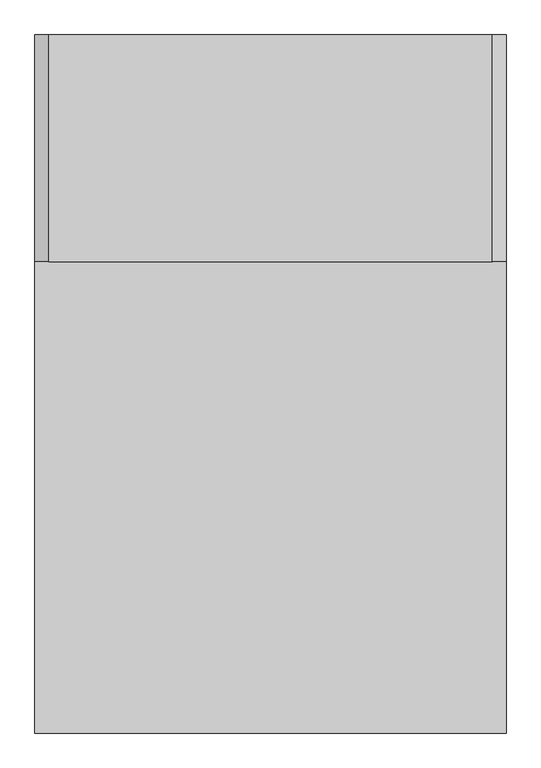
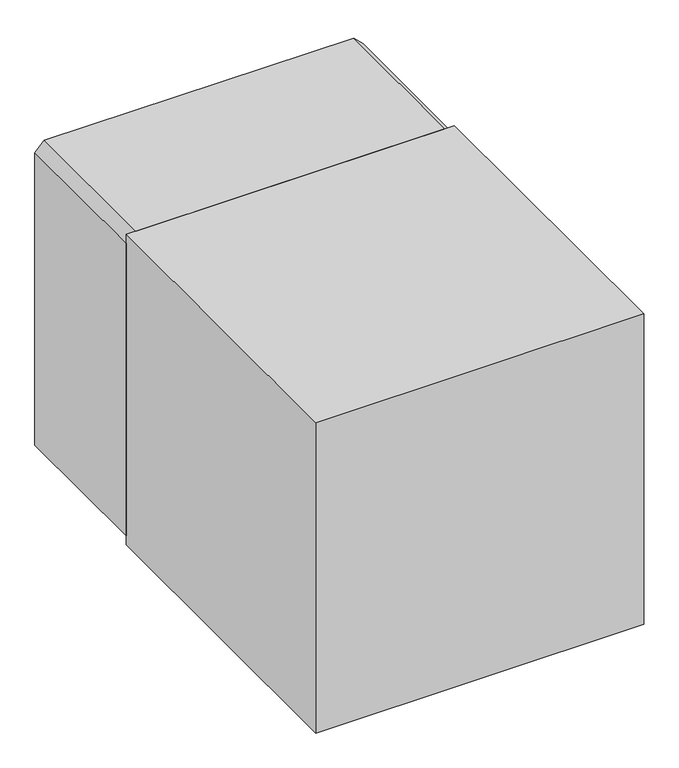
"""IFC4 building model written with IfcOpenShell, lengths in millimetres: electric distribution board geometry, НВО_НавесныеШкафыФиберглас_DKC : 330х685х685 мм (ГхШхВ)."""

from ifc_helpers import new_model, si_unit, point, frame, frame_2d, origin, place, context, project, spatial, polyline, circle_curve, ellipse_curve, trimmed, segment, composite_curve, outline, extrude, faceted_brep, source, transform, mapped, element, save
from ifc_brep_helpers import plane_surface, cylinder_surface, revolved_surface, advanced_brep


def electric_distribution_board_2cb2de86(model_context):
    return source(origin(), model_context, "Body", "SolidModel", [
        extrude(outline(composite_curve([segment(polyline([(1343.3138286, -257.7522548), (1350.9900433, -257.7522548)]), True, "CONTINUOUS"), segment(trimmed(circle_curve(frame_2d((1350.9900433, -267.1374537)), 9.3851989), [point((1350.9900433, -257.7522548))], [point((1354.4762928, -258.4237849))], False, "CARTESIAN"), True, "CONTINUOUS"), segment(trimmed(circle_curve(frame_2d((1352.6575175, -262.9697033)), 4.8962555), [point((1354.4762928, -258.4237849))], [point((1357.5311913, -262.5))], False, "CARTESIAN"), True, "CONTINUOUS"), segment(trimmed(circle_curve(frame_2d((1352.6575175, -262.0302967)), 4.8962555), [point((1357.5311913, -262.5))], [point((1354.4762928, -266.5762151))], False, "CARTESIAN"), True, "CONTINUOUS"), segment(trimmed(circle_curve(frame_2d((1350.9900433, -257.8625463)), 9.3851989), [point((1354.4762928, -266.5762151))], [point((1350.9900433, -267.2477452))], False, "CARTESIAN"), True, "CONTINUOUS"), segment(polyline([(1350.9900433, -267.2477452), (1343.3138286, -267.2477452), (1343.3138286, -257.7522548)]), True, "CONTINUOUS")], self_intersect=False), holes=[composite_curve([segment(polyline([(1346.8837798, -265.9305842), (1349.4434813, -265.9305842)]), True, "CONTINUOUS"), segment(trimmed(circle_curve(frame_2d((1349.4434813, -258.2124901)), 7.7180942), [point((1349.4434813, -265.9305842))], [point((1352.493583, -265.3023319))], True, "CARTESIAN"), True, "CONTINUOUS"), segment(trimmed(circle_curve(frame_2d((1351.7525158, -263.5797503)), 1.8752248), [point((1352.493583, -265.3023319))], [point((1353.5985068, -263.9095765))], True, "CARTESIAN"), True, "CONTINUOUS"), segment(trimmed(circle_curve(frame_2d((1343.5850865, -262.1204625)), 10.1719966), [point((1353.5985068, -263.9095765))], [point((1353.75, -262.5))], True, "CARTESIAN"), True, "CONTINUOUS"), segment(trimmed(circle_curve(frame_2d((1343.5850865, -262.8795375)), 10.1719966), [point((1353.75, -262.5))], [point((1353.5985068, -261.0904235))], True, "CARTESIAN"), True, "CONTINUOUS"), segment(trimmed(circle_curve(frame_2d((1351.7525158, -261.4202497)), 1.8752248), [point((1353.5985068, -261.0904235))], [point((1352.493583, -259.6976681))], True, "CARTESIAN"), True, "CONTINUOUS"), segment(trimmed(circle_curve(frame_2d((1349.4434813, -266.7875099)), 7.7180942), [point((1352.493583, -259.6976681))], [point((1349.4434813, -259.0694158))], True, "CARTESIAN"), True, "CONTINUOUS"), segment(polyline([(1349.4434813, -259.0694158), (1346.8837798, -259.0694158), (1346.8837798, -265.9305842)]), True, "CONTINUOUS")], self_intersect=False)]), frame((0.0, -349.9347331, 0.0), z_axis=(0.0, 1.0, 0.0), x_axis=(0.0, 0.0, 1.0)), (0.0, 0.0, 1.0), 2.0),
        extrude(outline(polyline([(1359.3651273, -267.2477452), (1359.3651273, -257.7522548), (1362.7591425, -257.7522548), (1362.7591425, -261.7401383), (1367.305842, -257.7522548), (1371.4379796, -257.7522548), (1365.5768154, -263.0384249), (1371.3065331, -267.2477452), (1368.7483827, -267.2477452), (1362.7254382, -262.7876655), (1362.7254382, -267.2477452), (1359.3651273, -267.2477452)])), frame((0.0, -349.9347331, 0.0), z_axis=(0.0, 1.0, 0.0), x_axis=(0.0, 0.0, 1.0)), (0.0, 0.0, 1.0), 2.0),
        extrude(outline(composite_curve([segment(trimmed(circle_curve(frame_2d((1379.4133068, -252.5078894)), 14.8634972), [point((1384.2152502, -266.5743349))], [point((1376.6895385, -267.1196872))], False, "CARTESIAN"), True, "CONTINUOUS"), segment(trimmed(circle_curve(frame_2d((1378.8630672, -255.4596787)), 11.860861), [point((1376.6895385, -267.1196872))], [point((1373.0739155, -265.8117677))], False, "CARTESIAN"), True, "CONTINUOUS"), segment(trimmed(circle_curve(frame_2d((1375.5750554, -261.3392604)), 5.1243559), [point((1373.0739155, -265.8117677))], [point((1371.28522, -264.1421758))], False, "CARTESIAN"), True, "CONTINUOUS"), segment(trimmed(circle_curve(frame_2d((1373.6229197, -262.6147571)), 2.7924627), [point((1371.28522, -264.1421758))], [point((1370.832816, -262.5))], False, "CARTESIAN"), True, "CONTINUOUS"), segment(trimmed(circle_curve(frame_2d((1375.1228648, -262.6764499)), 4.2936759), [point((1370.832816, -262.5))], [point((1372.9446969, -258.9762827))], False, "CARTESIAN"), True, "CONTINUOUS"), segment(trimmed(circle_curve(frame_2d((1378.9589923, -269.1930797)), 11.8555763), [point((1372.9446969, -258.9762827))], [point((1383.615315, -258.2901742))], False, "CARTESIAN"), True, "CONTINUOUS"), segment(polyline([(1383.615315, -258.2901742), (1384.1309744, -259.7760981)]), True, "CONTINUOUS"), segment(trimmed(circle_curve(frame_2d((1380.1192613, -265.8401731)), 7.2709591), [point((1384.1309744, -259.7760981))], [point((1375.6649902, -260.0933204))], True, "CARTESIAN"), True, "CONTINUOUS"), segment(trimmed(circle_curve(frame_2d((1377.3858263, -262.3135247)), 2.8090184), [point((1375.6649902, -260.0933204))], [point((1374.7884468, -263.3831991))], True, "CARTESIAN"), True, "CONTINUOUS"), segment(trimmed(circle_curve(frame_2d((1378.4916031, -261.8581346)), 4.0048956), [point((1374.7884468, -263.3831991))], [point((1376.5936187, -265.3847256))], True, "CARTESIAN"), True, "CONTINUOUS"), segment(trimmed(circle_curve(frame_2d((1379.5442994, -259.9021495)), 6.2261671), [point((1376.5936187, -265.3847256))], [point((1383.5549262, -264.6645049))], True, "CARTESIAN"), True, "CONTINUOUS"), segment(polyline([(1383.5549262, -264.6645049), (1384.2152502, -266.5743349)]), True, "CONTINUOUS")], self_intersect=False)), frame((0.0, -349.9347331, 0.0), z_axis=(0.0, 1.0, 0.0), x_axis=(0.0, 0.0, 1.0)), (0.0, 0.0, 1.0), 2.0),
        extrude(outline(composite_curve([segment(polyline([(-266.4810141, 1337.6655885), (-265.6225561, 1337.6655885), (-265.6225561, 1336.4735784), (-266.4989449, 1336.4735784), (-266.4989449, 1327.0443909), (-258.5055647, 1327.0443909), (-258.5055647, 1332.8979157)]), True, "CONTINUOUS"), segment(trimmed(circle_curve(frame_2d((-260.4883644, 1332.8979157)), 1.9827998), [point((-258.5055647, 1332.8979157))], [point((-260.024661, 1330.9700999))], False, "CARTESIAN"), True, "CONTINUOUS"), segment(polyline([(-260.024661, 1330.9700999), (-261.0784181, 1330.9700999)]), True, "CONTINUOUS"), segment(trimmed(circle_curve(frame_2d((-265.548804, 1335.9999778)), 6.7293403), [point((-261.0784181, 1330.9700999))], [point((-261.0784181, 1341.0298557))], True, "CARTESIAN"), True, "CONTINUOUS"), segment(polyline([(-261.0784181, 1341.0298557), (-259.7967122, 1341.0298557)]), True, "CONTINUOUS"), segment(trimmed(circle_curve(frame_2d((-262.6985482, 1337.0242138)), 4.9462935), [point((-259.7967122, 1341.0298557))], [point((-257.7522548, 1337.0242138))], False, "CARTESIAN"), True, "CONTINUOUS"), segment(polyline([(-257.7522548, 1337.0242138), (-257.7522548, 1324.8540454)]), True, "CONTINUOUS"), segment(trimmed(circle_curve(frame_2d((-258.7525173, 1324.8540454)), 1.0002626), [point((-257.7522548, 1324.8540454))], [point((-258.7525173, 1323.8537828))], False, "CARTESIAN"), True, "CONTINUOUS"), segment(polyline([(-258.7525173, 1323.8537828), (-266.2482214, 1323.8537828)]), True, "CONTINUOUS"), segment(trimmed(circle_curve(frame_2d((-266.2482214, 1324.8578162)), 1.0040334), [point((-266.2482214, 1323.8537828))], [point((-267.2522548, 1324.8578162))], False, "CARTESIAN"), True, "CONTINUOUS"), segment(polyline([(-267.2522548, 1324.8578162), (-267.2522548, 1336.8943478)]), True, "CONTINUOUS"), segment(trimmed(circle_curve(frame_2d((-266.4810141, 1336.8943478)), 0.7712407), [point((-267.2522548, 1336.8943478))], [point((-266.4810141, 1337.6655885))], False, "CARTESIAN"), True, "CONTINUOUS")], self_intersect=False)), frame((0.0, -347.9347331, 0.0), z_axis=(0.0, -1.0, 0.0), x_axis=(1.0, 0.0, 0.0)), (0.0, 0.0, 1.0), 2.0),
        extrude(outline(composite_curve([segment(polyline([(1341.0298557, -261.6735802), (1341.0298557, -262.4609475)]), True, "CONTINUOUS"), segment(trimmed(circle_curve(frame_2d((1335.9999778, -267.5528216)), 7.1572937), [point((1341.0298557, -262.4609475))], [point((1330.9700999, -262.4609475))], True, "CARTESIAN"), True, "CONTINUOUS"), segment(polyline([(1330.9700999, -262.4609475), (1330.9700999, -261.6735802)]), True, "CONTINUOUS"), segment(trimmed(circle_curve(frame_2d((1335.9999778, -266.1469573)), 6.7313279), [point((1330.9700999, -261.6735802))], [point((1341.0298557, -261.6735802))], False, "CARTESIAN"), True, "CONTINUOUS")], self_intersect=False)), frame((0.0, -349.9347331, 0.0), z_axis=(0.0, 1.0, 0.0), x_axis=(0.0, 0.0, 1.0)), (0.0, 0.0, 1.0), 2.0),
        extrude(outline(composite_curve([segment(trimmed(circle_curve(frame_2d((1336.0754287, -258.1681942)), 5.9267817), [point((1340.2887061, -262.3365314))], [point((1331.9178854, -262.392123))], False, "CARTESIAN"), True, "CONTINUOUS"), segment(polyline([(1331.9178854, -262.392123), (1332.4713245, -261.8386839)]), True, "CONTINUOUS"), segment(trimmed(circle_curve(frame_2d((1336.0532461, -256.5800223)), 6.3626791), [point((1332.4713245, -261.8386839))], [point((1339.6351677, -261.8386839))], True, "CARTESIAN"), True, "CONTINUOUS"), segment(polyline([(1339.6351677, -261.8386839), (1340.2887061, -262.3365314)]), True, "CONTINUOUS")], self_intersect=False)), frame((0.0, -349.9347331, 0.0), z_axis=(0.0, 1.0, 0.0), x_axis=(0.0, 0.0, 1.0)), (0.0, 0.0, 1.0), 2.0),
        extrude(outline(composite_curve([segment(trimmed(circle_curve(frame_2d((1336.0446509, -256.0765057)), 6.5304546), [point((1339.2527872, -261.7646248))], [point((1332.8365145, -261.7646248))], False, "CARTESIAN"), True, "CONTINUOUS"), segment(polyline([(1332.8365145, -261.7646248), (1333.6818807, -261.4146088)]), True, "CONTINUOUS"), segment(trimmed(circle_curve(frame_2d((1336.0533786, -254.9429647)), 6.8924726), [point((1333.6818807, -261.4146088))], [point((1338.4248764, -261.4146088))], True, "CARTESIAN"), True, "CONTINUOUS"), segment(polyline([(1338.4248764, -261.4146088), (1339.2527872, -261.7646248)]), True, "CONTINUOUS")], self_intersect=False)), frame((0.0, -349.9347331, 0.0), z_axis=(0.0, 1.0, 0.0), x_axis=(0.0, 0.0, 1.0)), (0.0, 0.0, 1.0), 2.0),
        extrude(outline(composite_curve([segment(polyline([(1340.4280867, -262.4744254), (1341.1420658, -263.1884044)]), True, "CONTINUOUS"), segment(trimmed(circle_curve(frame_2d((1336.0754287, -258.1681942)), 7.1325536), [point((1341.1420658, -263.1884044))], [point((1331.066359, -263.2458455))], False, "CARTESIAN"), True, "CONTINUOUS"), segment(polyline([(1331.066359, -263.2458455), (1331.7803485, -262.531856)]), True, "CONTINUOUS"), segment(trimmed(circle_curve(frame_2d((1336.0754287, -258.1681942)), 6.1228472), [point((1331.7803485, -262.531856))], [point((1340.4280867, -262.4744254))], True, "CARTESIAN"), True, "CONTINUOUS")], self_intersect=False)), frame((0.0, -349.9347331, 0.0), z_axis=(0.0, 1.0, 0.0), x_axis=(0.0, 0.0, 1.0)), (0.0, 0.0, 1.0), 2.0),
        advanced_brep(
        [(-262.5, -333.6219056, 1283.8787589), (-262.5, -333.6219056, 1401.1212411), (-246.7926219, -333.6219056, 1385.413863), (-246.7926219, -333.6219056, 1299.586137), (-278.2073781, -333.6219056, 1299.586137), (-278.2073781, -333.6219056, 1385.413863)],
        [
            (0, 1),
            (1, 2, circle_curve(frame((-262.5, -333.6219056, 1385.413863), z_axis=(0.0, 1.0, 0.0), x_axis=(-1.0, 0.0, 0.0)), 15.7073781)),
            (2, 3),
            (3, 0, circle_curve(frame((-262.5, -333.6219056, 1299.586137), z_axis=(0.0, 1.0, 0.0), x_axis=(-1.0, 0.0, 0.0)), 15.7073781)),
            (0, 4, circle_curve(frame((-262.5, -333.6219056, 1299.586137), z_axis=(0.0, 1.0, 0.0), x_axis=(1.0, 0.0, 0.0)), 15.7073781)),
            (4, 5),
            (5, 1, circle_curve(frame((-262.5, -333.6219056, 1385.413863), z_axis=(0.0, 1.0, 0.0), x_axis=(1.0, 0.0, 0.0)), 15.7073781)),
            (5, 2, circle_curve(frame((-262.5, -333.6219056, 1385.413863), z_axis=(0.0, 0.0, 1.0), x_axis=(1.0, 0.0, 0.0)), 15.7073781)),
            (4, 3, circle_curve(frame((-262.5, -333.6219056, 1299.586137), z_axis=(0.0, 0.0, 1.0), x_axis=(1.0, 0.0, 0.0)), 15.7073781)),
        ],
        [
            plane_surface(frame((-262.5, -333.6219056, 3342.5), z_axis=(0.0, 1.0, 0.0), x_axis=(1.0, 0.0, 0.0))),
            plane_surface(frame((-262.5, -333.6219056, 3342.5), z_axis=(0.0, 1.0, 0.0), x_axis=(-1.0, 0.0, 0.0))),
            revolved_surface(trimmed(ellipse_curve(frame((-262.5, -333.6219056, 1385.413863), z_axis=(0.0, 1.0, 0.0), x_axis=(-1.0, 0.0, 0.0)), 15.7073781, 15.7073781), [point((-262.5, -333.6219056, 1401.1212411))], [point((-246.7926219, -333.6219056, 1385.413863))], True, "CARTESIAN"), (-262.5, -333.6219056, 3342.5), (0.0, 0.0, -1.0)),
            cylinder_surface(frame((-262.5, -333.6219056, 3342.5), z_axis=(0.0, 0.0, -1.0), x_axis=(1.0, 0.0, 0.0)), 15.7073781),
            revolved_surface(trimmed(ellipse_curve(frame((-262.5, -333.6219056, 1299.586137), z_axis=(0.0, 1.0, 0.0), x_axis=(-1.0, 0.0, 0.0)), 15.7073781, 15.7073781), [point((-246.7926219, -333.6219056, 1299.586137))], [point((-262.5, -333.6219056, 1283.8787589))], True, "CARTESIAN"), (-262.5, -333.6219056, 3342.5), (0.0, 0.0, -1.0)),
        ],
        [
            (0, [[1, 2, 3, 4]]),
            (1, [[5, 6, 7, -1]]),
            (2, [[8, -2, -7]]),
            (3, [[9, -3, -8, -6]]),
            (4, [[-4, -9, -5]]),
        ],
    ),
        advanced_brep(
        [(-243.165726, -333.6219056, 1299.586137), (-281.834274, -333.6219056, 1299.586137), (-288.2073781, -330.0, 1299.586137), (-236.7926219, -330.0, 1299.586137), (-246.7926219, -330.0, 1299.586137), (-278.2073781, -330.0, 1299.586137), (-278.2073781, -333.6219056, 1299.586137), (-246.7926219, -333.6219056, 1299.586137), (-236.7926219, -330.0, 1385.413863), (-243.165726, -333.6219056, 1385.413863), (-246.7926219, -333.6219056, 1385.413863), (-246.7926219, -330.0, 1385.413863), (-281.834274, -333.6219056, 1385.413863), (-288.2073781, -330.0, 1385.413863), (-278.2073781, -330.0, 1385.413863), (-278.2073781, -333.6219056, 1385.413863)],
        [
            (0, 1, circle_curve(frame((-262.5, -333.6219056, 1299.586137), z_axis=(0.0, 1.0, 0.0), x_axis=(-1.0, 0.0, 0.0)), 19.334274)),
            (1, 2),
            (2, 3, circle_curve(frame((-262.5, -330.0, 1299.586137), z_axis=(0.0, -1.0, 0.0), x_axis=(-1.0, 0.0, 0.0)), 25.7073781)),
            (3, 0),
            (4, 5, circle_curve(frame((-262.5, -330.0, 1299.586137), z_axis=(0.0, 1.0, 0.0), x_axis=(-1.0, 0.0, 0.0)), 15.7073781)),
            (5, 6),
            (6, 7, circle_curve(frame((-262.5, -333.6219056, 1299.586137), z_axis=(0.0, -1.0, 0.0), x_axis=(-1.0, 0.0, 0.0)), 15.7073781)),
            (7, 4),
            (3, 8),
            (8, 9),
            (9, 0),
            (7, 10),
            (10, 11),
            (11, 4),
            (12, 9, circle_curve(frame((-262.5, -333.6219056, 1385.413863), z_axis=(0.0, 1.0, 0.0), x_axis=(1.0, 0.0, 0.0)), 19.334274)),
            (8, 13, circle_curve(frame((-262.5, -330.0, 1385.413863), z_axis=(0.0, -1.0, 0.0), x_axis=(1.0, 0.0, 0.0)), 25.7073781)),
            (13, 12),
            (14, 11, circle_curve(frame((-262.5, -330.0, 1385.413863), z_axis=(0.0, 1.0, 0.0), x_axis=(1.0, 0.0, 0.0)), 15.7073781)),
            (10, 15, circle_curve(frame((-262.5, -333.6219056, 1385.413863), z_axis=(0.0, -1.0, 0.0), x_axis=(1.0, 0.0, 0.0)), 15.7073781)),
            (15, 14),
            (2, 13),
            (14, 5),
            (1, 12),
            (6, 15),
        ],
        [
            revolved_surface(polyline([(-288.2073781, -330.0, 1299.586137), (-281.834274, -333.6219056, 1299.586137)]), (-262.5, -330.0, 1299.586137), (0.0, -1.0, 0.0)),
            revolved_surface(polyline([(-278.2073781, -333.6219056, 1299.586137), (-278.2073781, -330.0, 1299.586137)]), (-262.5, -330.0, 1299.586137), (0.0, -1.0, 0.0)),
            plane_surface(frame((-236.7926219, -330.0, 1299.586137), z_axis=(0.49409435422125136, -0.8694082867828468, 0.0), x_axis=(0.0, 0.0, 1.0))),
            plane_surface(frame((-246.7926219, -333.6219056, 1299.586137), z_axis=(-1.0, 0.0, 0.0), x_axis=(0.0, 0.0, 1.0))),
            revolved_surface(polyline([(-236.7926219, -330.0, 1385.413863), (-243.165726, -333.6219056, 1385.413863)]), (-262.5, -330.0, 1385.413863), (0.0, -1.0, 0.0)),
            revolved_surface(polyline([(-246.7926219, -333.6219056, 1385.413863), (-246.7926219, -330.0, 1385.413863)]), (-262.5, -330.0, 1385.413863), (0.0, -1.0, 0.0)),
            plane_surface(frame((-278.2073781, -330.0, 1385.413863), z_axis=(0.0, 1.0, 0.0), x_axis=(0.0, 0.0, -1.0))),
            plane_surface(frame((-288.2073781, -330.0, 1385.413863), z_axis=(-0.49409435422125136, -0.8694082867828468, 0.0), x_axis=(0.0, 0.0, -1.0))),
            plane_surface(frame((-281.834274, -333.6219056, 1385.413863), z_axis=(0.0, -1.0, 0.0), x_axis=(0.0, 0.0, -1.0))),
            plane_surface(frame((-278.2073781, -333.6219056, 1385.413863), z_axis=(1.0, 0.0, 0.0), x_axis=(0.0, 0.0, -1.0))),
        ],
        [
            (0, [[1, 2, 3, 4]]),
            (1, [[5, 6, 7, 8]]),
            (2, [[-4, 9, 10, 11]]),
            (3, [[-8, 12, 13, 14]]),
            (4, [[15, -10, 16, 17]]),
            (5, [[18, -13, 19, 20]]),
            (6, [[21, -16, -9, -3], [-14, -18, 22, -5]]),
            (7, [[-17, -21, -2, 23]]),
            (8, [[-11, -15, -23, -1], [24, -19, -12, -7]]),
            (9, [[-20, -24, -6, -22]]),
        ],
    ),
        extrude(outline(polyline([(322.5, -330.0), (-322.5, -330.0), (-322.5, -325.0), (322.5, -325.0), (322.5, -330.0)])), frame((0.0, 0.0, 1020.0), z_axis=(0.0, 0.0, 1.0), x_axis=(1.0, 0.0, 0.0)), (0.0, 0.0, 1.0), 645.0),
        faceted_brep([(322.5, -5.0, 1020.0), (322.5, -5.0, 1665.0), (-322.5, -5.0, 1665.0), (-322.5, -5.0, 1020.0), (-342.5, 0.0, 1020.0), (-342.5, 0.0, 1665.0), (-322.5, 0.0, 1685.0), (322.5, 0.0, 1685.0), (342.5, 0.0, 1665.0), (342.5, 0.0, 1020.0), (322.5, 0.0, 1000.0), (-322.5, 0.0, 1000.0), (-342.5, -330.0, 1020.0), (-322.5, -330.0, 1000.0), (322.5, -330.0, 1000.0), (342.5, -330.0, 1020.0), (342.5, -330.0, 1665.0), (322.5, -330.0, 1685.0), (-322.5, -330.0, 1685.0), (-342.5, -330.0, 1665.0), (322.5, -330.0, 1665.0), (322.5, -330.0, 1020.0), (-322.5, -330.0, 1020.0), (-322.5, -330.0, 1665.0)], [[[0, 1, 2, 3]], [[4, 5, 6, 7, 8, 9, 10, 11]], [[12, 13, 14, 15, 16, 17, 18, 19], [20, 21, 22, 23]], [[13, 12, 4, 11]], [[14, 13, 11, 10]], [[15, 14, 10, 9]], [[16, 15, 9, 8]], [[17, 16, 8, 7]], [[18, 17, 7, 6]], [[19, 18, 6, 5]], [[12, 19, 5, 4]], [[21, 20, 1, 0]], [[22, 21, 0, 3]], [[23, 22, 3, 2]], [[20, 23, 2, 1]]]),
        extrude(outline(polyline([(342.5, -1015.0), (-342.5, -1015.0), (-342.5, -330.0), (342.5, -330.0), (342.5, -1015.0)])), frame((0.0, 0.0, 1000.0), z_axis=(0.0, 0.0, 1.0), x_axis=(1.0, 0.0, 0.0)), (0.0, 0.0, 1.0), 685.0),
    ])


if __name__ == "__main__":
    model = new_model("IFC4")
    model_context = context("Model", 3, world=origin())
    ifc_project = project(units=[si_unit("LENGTHUNIT", "METRE", prefix="MILLI")], contexts=[model_context])
    site = spatial("IfcSite", under=ifc_project)
    building = spatial("IfcBuilding", under=site)
    placement = place(None, origin())
    electric_distribution_board_shape = electric_distribution_board_2cb2de86(model_context)
    element("IfcElectricDistributionBoard", 1, ObjectType="НВО_НавесныеШкафыФиберглас_DKC : 330х685х685 мм (ГхШхВ)", at=placement, inside=building, context=model_context, shape_type="MappedRepresentation", body=[
        mapped(electric_distribution_board_shape, transform((0.0, 0.0, 0.0), x_axis=(1.0, 0.0, 0.0), y_axis=(0.0, 1.0, 0.0), z_axis=(0.0, 0.0, 1.0))),
    ])
    save(model, "model.ifc")
